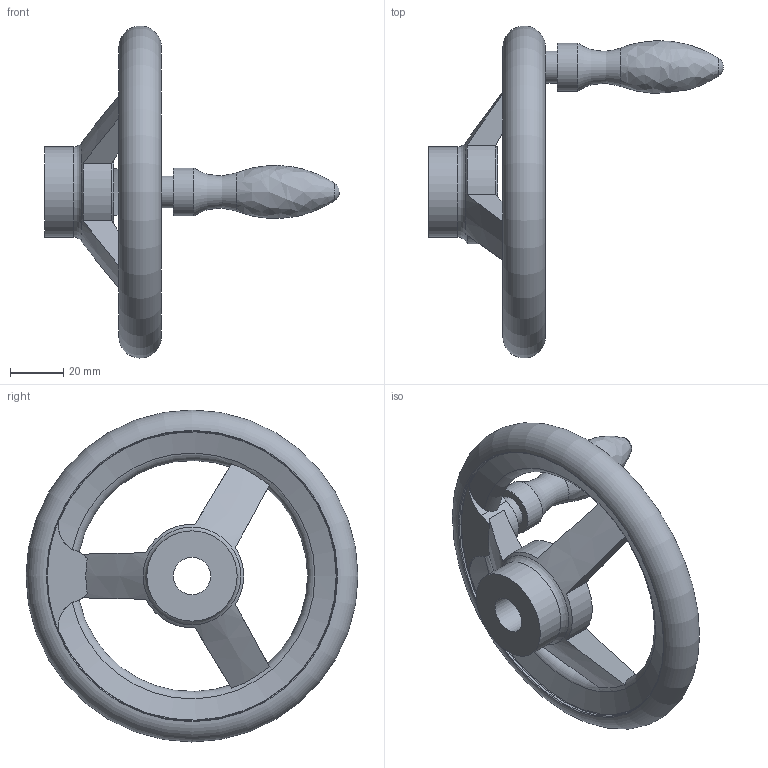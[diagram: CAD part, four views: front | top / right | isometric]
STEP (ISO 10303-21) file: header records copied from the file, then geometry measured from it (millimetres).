
FILE_DESCRIPTION( ( 'STEP AP203' ), '1' );
FILE_NAME( 'C:/Temp/Ganter_Step_05_03_2020/data/1_3/gn_950_1/gn_950_1_b/gn_950_1_b_d/Handwheel GN 950.1-GG-125-B14-D.stp', '2020-03-05T10:32:33', ( 'License CC BY-ND 4.0' ), ( 'CADENAS' ), ' ', 'PARTsolutions', ' ' );
FILE_SCHEMA( ( 'CONFIG_CONTROL_DESIGN' ) );
Length unit declared in the file: millimetre
Products named in the file (1): _Handwheel GN 950.1-GG-125-B14-D
Bounding box: 111 x 124.99 x 124.99 mm (x, y, z)
Volume: 117107.4 mm3; surface area: 31947.8 mm2
Topology: 1 solids, 1 shells, 45 faces, 126 edges, 80 vertices
Faces by surface type: cylinder 15, torus 13, plane 11, cone 4, bspline 1, sphere 1
Full cylindrical faces by diameter (mm): 12 x1, 14 x1, 18 x1, 34 x2, 109 x2
Entity records: 1681 total; most frequent: CARTESIAN_POINT 619, ORIENTED_EDGE 202, DIRECTION 198, EDGE_CURVE 101, AXIS2_PLACEMENT_3D 93, VERTEX_POINT 76, EDGE_LOOP 69, FACE_OUTER_BOUND 61
